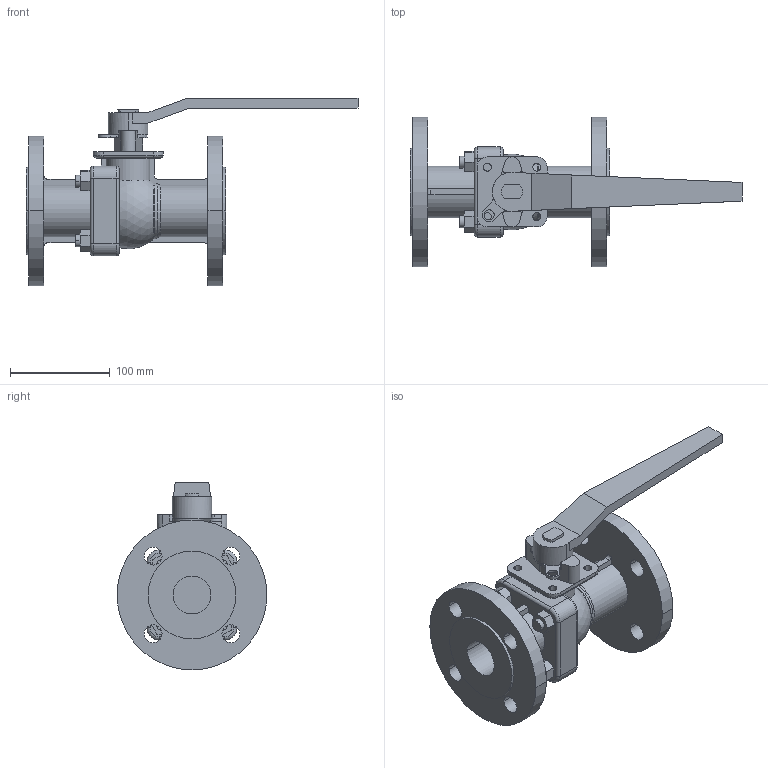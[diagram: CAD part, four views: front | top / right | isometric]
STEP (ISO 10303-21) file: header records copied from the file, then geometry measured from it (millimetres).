
FILE_DESCRIPTION( (''), '2;1');
FILE_NAME ('PC2091.16192.BLV-2SF EN PN16 40A_6969.stp','2026-05-28T09:12:21',(''),(''),'spGate 21.9.4 (****-****-****-****)','','');
FILE_SCHEMA (('AUTOMOTIVE_DESIGN'));
Length unit declared in the file: millimetre
Products named in the file (2): Assembly; BLV-2SFEN 40A
Assembly tree (1 placements, depth 2):
  Assembly
    BLV-2SFEN 40A
Bounding box: 332.2 x 150 x 188 mm (x, y, z)
Volume: 1121742.2 mm3; surface area: 188387.5 mm2
Topology: 1 solids, 1 shells, 217 faces, 567 edges, 367 vertices
Faces by surface type: plane 100, cylinder 100, bspline 16, sphere 1
Entity records: 11751 total; most frequent: CARTESIAN_POINT 1763, DIRECTION 1152, ORIENTED_EDGE 1134, COLOUR_RGB 785, PRESENTATION_STYLE_ASSIGNMENT 785, STYLED_ITEM 785, EDGE_CURVE 567, DRAUGHTING_PRE_DEFINED_CURVE_FONT 567
